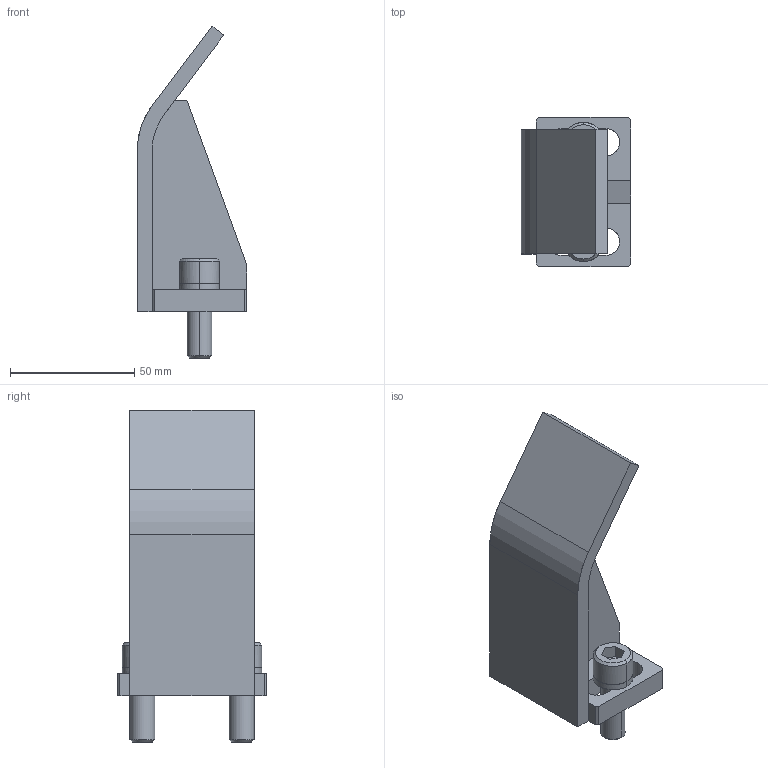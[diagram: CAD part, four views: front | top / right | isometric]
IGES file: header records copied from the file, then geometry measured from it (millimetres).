
Global section: file name: E:\UnigraphicsGraphicData\MISUMI_PRESS-PARTS\IGES\3d_nstfa-75-m10_01621_r00.igs; native system: NX V5.0; preprocessor: UGS NX IGES V5.0; author: MISUMI; date: 20110105.162129; units: millimetre
Bounding box: 44 x 60 x 133.5 mm (x, y, z)
Surface area: 28353.1 mm2 (no closed solid volume)
Topology: 0 solids, 0 shells, 83 faces, 516 edges, 516 vertices
Faces by surface type: bspline 83
